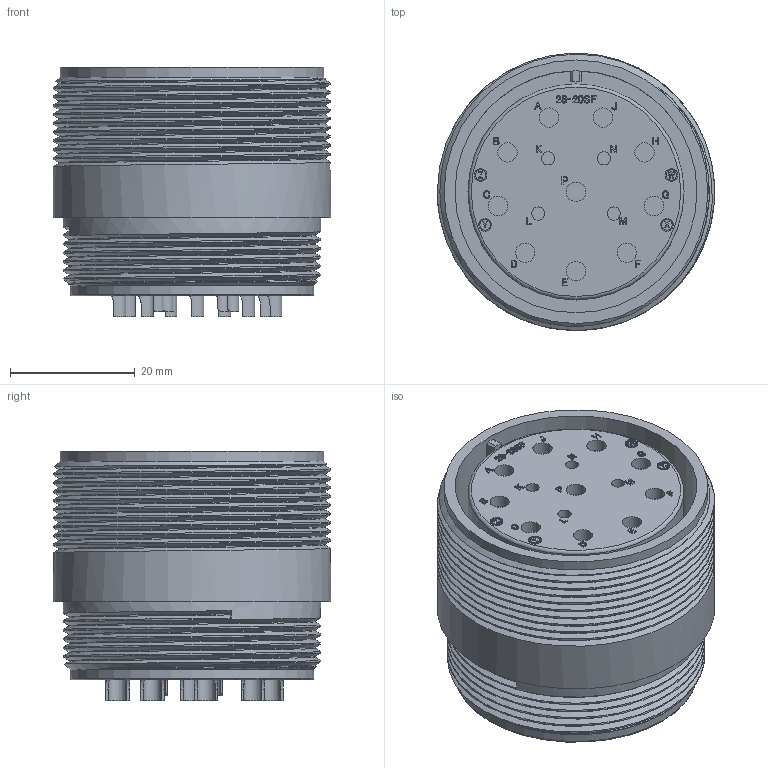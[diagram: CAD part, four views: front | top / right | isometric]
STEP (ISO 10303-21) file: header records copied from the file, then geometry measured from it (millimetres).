
FILE_DESCRIPTION (( 'STEP AP203' ), '1' );
FILE_NAME ('DMS3101A28-20S(D263).STEP', '2022-02-17T01:25:09', ( '' ), ( '' ), 'SwSTEP 2.0', 'SolidWorks 2018', '' );
FILE_SCHEMA (( 'CONFIG_CONTROL_DESIGN' ));
Length unit declared in the file: millimetre
Products named in the file (1): DMS3101A28-20S(D263)
Bounding box: 44.41 x 44.41 x 40.03 mm (x, y, z)
Volume: 43557.5 mm3; surface area: 18344.2 mm2
Topology: 1 solids, 1 shells, 1150 faces, 3074 edges, 2052 vertices
Faces by surface type: plane 618, bspline 363, cylinder 164, cone 3, torus 2
Full cylindrical faces by diameter (mm): 1.7 x4, 2 x4, 2.11 x4, 2.85 x10, 3.1 x10, 3.79 x10, 3.9 x10, 31.75 x1, 34.54 x1, 34.6 x1, 36.35 x1, 38.75 x1, 39 x1, 41.23 x6, 42.22 x1, 44.41 x9
Entity records: 48247 total; most frequent: CARTESIAN_POINT 22769, ORIENTED_EDGE 5844, DIRECTION 3937, EDGE_CURVE 2922, VERTEX_POINT 1981, LINE 1861, VECTOR 1861, EDGE_LOOP 1325
